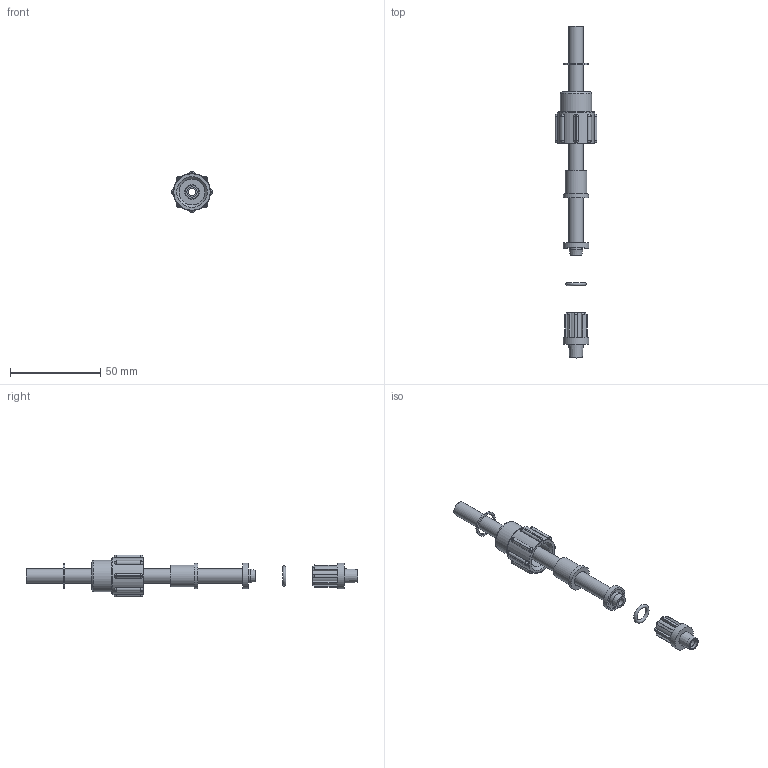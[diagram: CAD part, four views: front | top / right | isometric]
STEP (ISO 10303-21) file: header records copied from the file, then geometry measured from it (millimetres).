
FILE_DESCRIPTION(/* description */ (''),/* implementation_level */ '2;1');
FILE_NAME(/* name */ 'Cat_LEV_35207010_SET_B_1-Schlauchanschluß.stp',/* time_stamp */ '2020-02-13T15:31:56+01:00',/* author */ (''),/* organization */ (''),/* preprocessor_version */ 'ST-DEVELOPER v16',/* originating_system */ 'SIEMENS PLM Software NX 11.0',/* authorisation */ '');
FILE_SCHEMA (('AP203_CONFIGURATION_CONTROLLED_3D_DESIGN_OF_MECHANICAL_PARTS_AND_ASSEMBLIES_MIM_LF { 1 0 10303 403 2 1 2}'));
Length unit declared in the file: millimetre
Products named in the file (1): hi2n1C48DBE9mnbz
Bounding box: 23.2 x 183.78 x 23.2 mm (x, y, z)
Volume: 10235.1 mm3; surface area: 13088.5 mm2
Topology: 7 solids, 7 shells, 228 faces, 528 edges, 296 vertices
Faces by surface type: cylinder 98, plane 77, sphere 32, cone 17, bspline 3, torus 1
Full cylindrical faces by diameter (mm): 4 x1, 5.75 x1, 6 x1, 7.7 x1, 8 x1, 8.3 x1, 8.8 x1, 12 x2, 12.2 x1, 13 x1, 14 x1, 14.1 x2, 14.2 x1, 14.3 x1, 17.4 x1, 20.5 x1
Entity records: 6174 total; most frequent: CARTESIAN_POINT 1176, DIRECTION 1074, ORIENTED_EDGE 926, EDGE_CURVE 463, AXIS2_PLACEMENT_3D 433, VERTEX_POINT 296, EDGE_LOOP 286, ADVANCED_FACE 228
